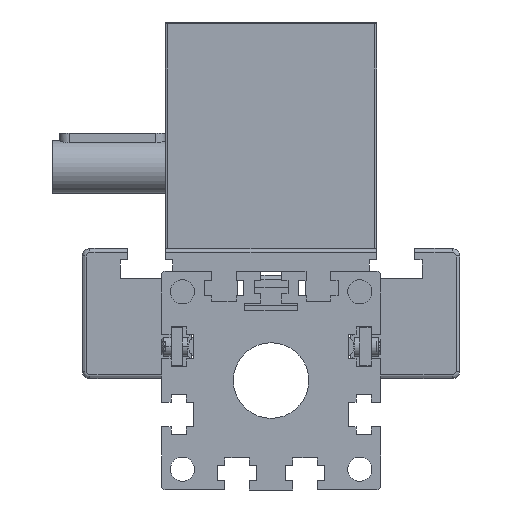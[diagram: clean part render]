
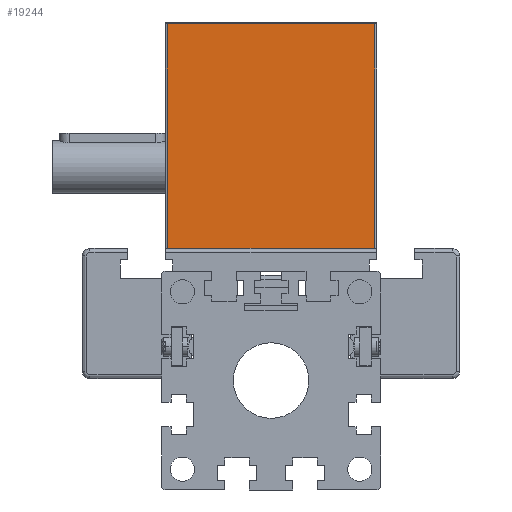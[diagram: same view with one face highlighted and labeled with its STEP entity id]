
A CAD part, front view. The second image highlights one B-rep face of the part: STEP entity #19244.
In plain terms, the highlighted planar face has unit normal (0, -1, 0) as drawn and (-1, 0, 0) by its records, which use the part's own axes.
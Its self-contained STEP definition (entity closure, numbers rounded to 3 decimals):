
#280 = CARTESIAN_POINT ( 'NONE',  ( -50., 27.5, 0. ) ) ;
#1367 = ORIENTED_EDGE ( 'NONE', *, *, #6489, .T. ) ;
#5953 = ORIENTED_EDGE ( 'NONE', *, *, #33363, .T. ) ;
#6489 = EDGE_CURVE ( 'NONE', #10468, #31345, #24679, .T. ) ;
#9049 = EDGE_CURVE ( 'NONE', #10468, #39655, #16217, .T. ) ;
#9670 = CARTESIAN_POINT ( 'NONE',  ( -50., -27.5, 59.5 ) ) ;
#10468 = VERTEX_POINT ( 'NONE', #25416 ) ;
#14625 = VECTOR ( 'NONE', #17982, 1000. ) ;
#16217 = LINE ( 'NONE', #19910, #21250 ) ;
#16401 = ORIENTED_EDGE ( 'NONE', *, *, #25891, .T. ) ;
#17982 = DIRECTION ( 'NONE',  ( 0., 1., 0. ) ) ;
#19244 = ADVANCED_FACE ( 'NONE', ( #30317 ), #21304, .F. ) ;
#19250 = AXIS2_PLACEMENT_3D ( 'NONE', #26838, #27233, #39728 ) ;
#19910 = CARTESIAN_POINT ( 'NONE',  ( -50., -28., 0. ) ) ;
#21250 = VECTOR ( 'NONE', #22789, 1000. ) ;
#21304 = PLANE ( 'NONE',  #19250 ) ;
#22081 = DIRECTION ( 'NONE',  ( 0., 0., -1. ) ) ;
#22789 = DIRECTION ( 'NONE',  ( 0., 1., 0. ) ) ;
#24679 = LINE ( 'NONE', #40237, #35208 ) ;
#25416 = CARTESIAN_POINT ( 'NONE',  ( -50., -27.5, 0. ) ) ;
#25471 = ORIENTED_EDGE ( 'NONE', *, *, #9049, .F. ) ;
#25891 = EDGE_CURVE ( 'NONE', #35136, #39655, #34554, .T. ) ;
#26838 = CARTESIAN_POINT ( 'NONE',  ( -50., -28., 0. ) ) ;
#27233 = DIRECTION ( 'NONE',  ( 1., 0., 0. ) ) ;
#27410 = CARTESIAN_POINT ( 'NONE',  ( -50., -28., 59.5 ) ) ;
#29011 = CARTESIAN_POINT ( 'NONE',  ( -50., 27.5, 0. ) ) ;
#29260 = CARTESIAN_POINT ( 'NONE',  ( -50., 27.5, 59.5 ) ) ;
#30317 = FACE_OUTER_BOUND ( 'NONE', #38388, .T. ) ;
#31231 = DIRECTION ( 'NONE',  ( 0., 0., 1. ) ) ;
#31345 = VERTEX_POINT ( 'NONE', #9670 ) ;
#33363 = EDGE_CURVE ( 'NONE', #31345, #35136, #33551, .T. ) ;
#33450 = VECTOR ( 'NONE', #22081, 1000. ) ;
#33551 = LINE ( 'NONE', #27410, #14625 ) ;
#34554 = LINE ( 'NONE', #280, #33450 ) ;
#35136 = VERTEX_POINT ( 'NONE', #29260 ) ;
#35208 = VECTOR ( 'NONE', #31231, 1000. ) ;
#38388 = EDGE_LOOP ( 'NONE', ( #5953, #16401, #25471, #1367 ) ) ;
#39655 = VERTEX_POINT ( 'NONE', #29011 ) ;
#39728 = DIRECTION ( 'NONE',  ( 0., 0., -1. ) ) ;
#40237 = CARTESIAN_POINT ( 'NONE',  ( -50., -27.5, 0. ) ) ;
